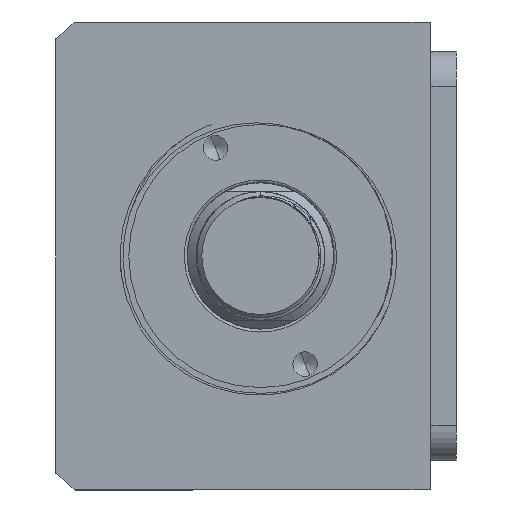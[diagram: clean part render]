
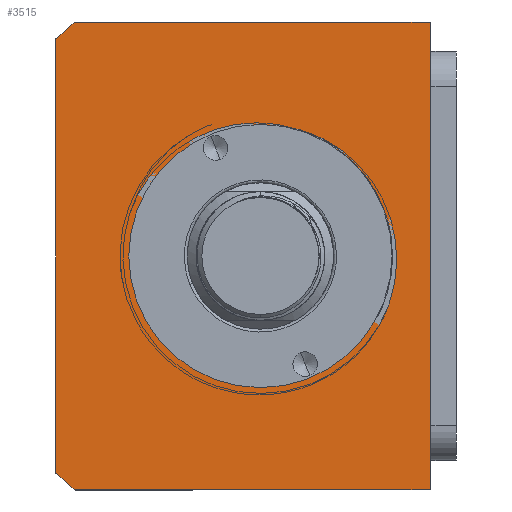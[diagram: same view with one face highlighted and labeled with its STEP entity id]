
A CAD part, front view. The second image highlights one B-rep face of the part: STEP entity #3515.
In plain terms, the highlighted planar face has unit normal (0, -1, 0) as drawn and (0, 0, 1) by its records, which use the part's own axes.
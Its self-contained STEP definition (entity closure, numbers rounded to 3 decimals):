
#83 = CARTESIAN_POINT ( 'NONE',  ( 0., -40.507, 100. ) ) ;
#86 = ORIENTED_EDGE ( 'NONE', *, *, #2985, .T. ) ;
#261 = ORIENTED_EDGE ( 'NONE', *, *, #3947, .T. ) ;
#266 = DIRECTION ( 'NONE',  ( 0., 1., 0. ) ) ;
#636 = DIRECTION ( 'NONE',  ( 1., 0., 0. ) ) ;
#1164 = DIRECTION ( 'NONE',  ( 1., 0., 0. ) ) ;
#1168 = EDGE_CURVE ( 'NONE', #10045, #10236, #12396, .T. ) ;
#1614 = CARTESIAN_POINT ( 'NONE',  ( -40., -72.145, 100. ) ) ;
#1938 = CARTESIAN_POINT ( 'NONE',  ( 37.094, -75.507, 100. ) ) ;
#2095 = VERTEX_POINT ( 'NONE', #8307 ) ;
#2431 = PLANE ( 'NONE',  #4261 ) ;
#2707 = CARTESIAN_POINT ( 'NONE',  ( 0., -40.507, 100. ) ) ;
#2985 = EDGE_CURVE ( 'NONE', #10011, #10045, #9343, .T. ) ;
#2993 = CARTESIAN_POINT ( 'NONE',  ( -37.094, -75.507, 100. ) ) ;
#3515 = ADVANCED_FACE ( 'NONE', ( #6709, #12655 ), #2431, .T. ) ;
#3719 = VECTOR ( 'NONE', #8183, 1000. ) ;
#3800 = DIRECTION ( 'NONE',  ( 1., 0., 0. ) ) ;
#3935 = VERTEX_POINT ( 'NONE', #1938 ) ;
#3947 = EDGE_CURVE ( 'NONE', #9219, #3935, #4023, .T. ) ;
#4023 = LINE ( 'NONE', #10431, #9326 ) ;
#4114 = CARTESIAN_POINT ( 'NONE',  ( -40., -11.507, 100. ) ) ;
#4249 = ORIENTED_EDGE ( 'NONE', *, *, #4529, .T. ) ;
#4261 = AXIS2_PLACEMENT_3D ( 'NONE', #7518, #10922, #4581 ) ;
#4296 = CIRCLE ( 'NONE', #4816, 22.5 ) ;
#4529 = EDGE_CURVE ( 'NONE', #10236, #9219, #11987, .T. ) ;
#4581 = DIRECTION ( 'NONE',  ( 1., 0., 0. ) ) ;
#4609 = CARTESIAN_POINT ( 'NONE',  ( 40., -11.507, 100. ) ) ;
#4816 = AXIS2_PLACEMENT_3D ( 'NONE', #11678, #5336, #12746 ) ;
#5336 = DIRECTION ( 'NONE',  ( 0., 0., 1. ) ) ;
#5753 = CIRCLE ( 'NONE', #11759, 22.5 ) ;
#5970 = CARTESIAN_POINT ( 'NONE',  ( -22.5, -40.507, 100. ) ) ;
#6205 = CIRCLE ( 'NONE', #13238, 51. ) ;
#6709 = FACE_BOUND ( 'NONE', #12233, .T. ) ;
#6793 = CARTESIAN_POINT ( 'NONE',  ( 22.5, -40.507, 100. ) ) ;
#7017 = DIRECTION ( 'NONE',  ( 0., 0., 1. ) ) ;
#7170 = DIRECTION ( 'NONE',  ( 0., -1., 0. ) ) ;
#7516 = DIRECTION ( 'NONE',  ( 0., 0., 1. ) ) ;
#7518 = CARTESIAN_POINT ( 'NONE',  ( 0., 0., 100. ) ) ;
#7533 = LINE ( 'NONE', #12973, #10349 ) ;
#7576 = ORIENTED_EDGE ( 'NONE', *, *, #9340, .T. ) ;
#7579 = EDGE_CURVE ( 'NONE', #11168, #11016, #5753, .T. ) ;
#8183 = DIRECTION ( 'NONE',  ( -1., 0., 0. ) ) ;
#8307 = CARTESIAN_POINT ( 'NONE',  ( 40., -72.145, 100. ) ) ;
#8534 = ORIENTED_EDGE ( 'NONE', *, *, #12855, .F. ) ;
#9219 = VERTEX_POINT ( 'NONE', #2993 ) ;
#9227 = ORIENTED_EDGE ( 'NONE', *, *, #1168, .T. ) ;
#9326 = VECTOR ( 'NONE', #9368, 1000. ) ;
#9340 = EDGE_CURVE ( 'NONE', #2095, #10011, #7533, .T. ) ;
#9343 = LINE ( 'NONE', #11338, #3719 ) ;
#9368 = DIRECTION ( 'NONE',  ( 1., 0., 0. ) ) ;
#9557 = VECTOR ( 'NONE', #7170, 1000. ) ;
#9683 = EDGE_LOOP ( 'NONE', ( #9227, #4249, #261, #12241, #7576, #86 ) ) ;
#9924 = CARTESIAN_POINT ( 'NONE',  ( -40., -11.507, 100. ) ) ;
#10011 = VERTEX_POINT ( 'NONE', #4609 ) ;
#10045 = VERTEX_POINT ( 'NONE', #9924 ) ;
#10134 = AXIS2_PLACEMENT_3D ( 'NONE', #2707, #10135, #3800 ) ;
#10135 = DIRECTION ( 'NONE',  ( 0., 0., 1. ) ) ;
#10236 = VERTEX_POINT ( 'NONE', #1614 ) ;
#10349 = VECTOR ( 'NONE', #266, 1000. ) ;
#10431 = CARTESIAN_POINT ( 'NONE',  ( -40., -75.507, 100. ) ) ;
#10635 = EDGE_CURVE ( 'NONE', #3935, #2095, #6205, .T. ) ;
#10922 = DIRECTION ( 'NONE',  ( 0., 0., 1. ) ) ;
#11016 = VERTEX_POINT ( 'NONE', #6793 ) ;
#11168 = VERTEX_POINT ( 'NONE', #5970 ) ;
#11338 = CARTESIAN_POINT ( 'NONE',  ( -40., -11.507, 100. ) ) ;
#11678 = CARTESIAN_POINT ( 'NONE',  ( 0., -40.507, 100. ) ) ;
#11759 = AXIS2_PLACEMENT_3D ( 'NONE', #13346, #7017, #636 ) ;
#11987 = CIRCLE ( 'NONE', #10134, 51. ) ;
#12048 = ORIENTED_EDGE ( 'NONE', *, *, #7579, .F. ) ;
#12233 = EDGE_LOOP ( 'NONE', ( #8534, #12048 ) ) ;
#12241 = ORIENTED_EDGE ( 'NONE', *, *, #10635, .T. ) ;
#12396 = LINE ( 'NONE', #4114, #9557 ) ;
#12655 = FACE_OUTER_BOUND ( 'NONE', #9683, .T. ) ;
#12746 = DIRECTION ( 'NONE',  ( 1., 0., 0. ) ) ;
#12855 = EDGE_CURVE ( 'NONE', #11016, #11168, #4296, .T. ) ;
#12973 = CARTESIAN_POINT ( 'NONE',  ( 40., -11.507, 100. ) ) ;
#13238 = AXIS2_PLACEMENT_3D ( 'NONE', #83, #7516, #1164 ) ;
#13346 = CARTESIAN_POINT ( 'NONE',  ( 0., -40.507, 100. ) ) ;
